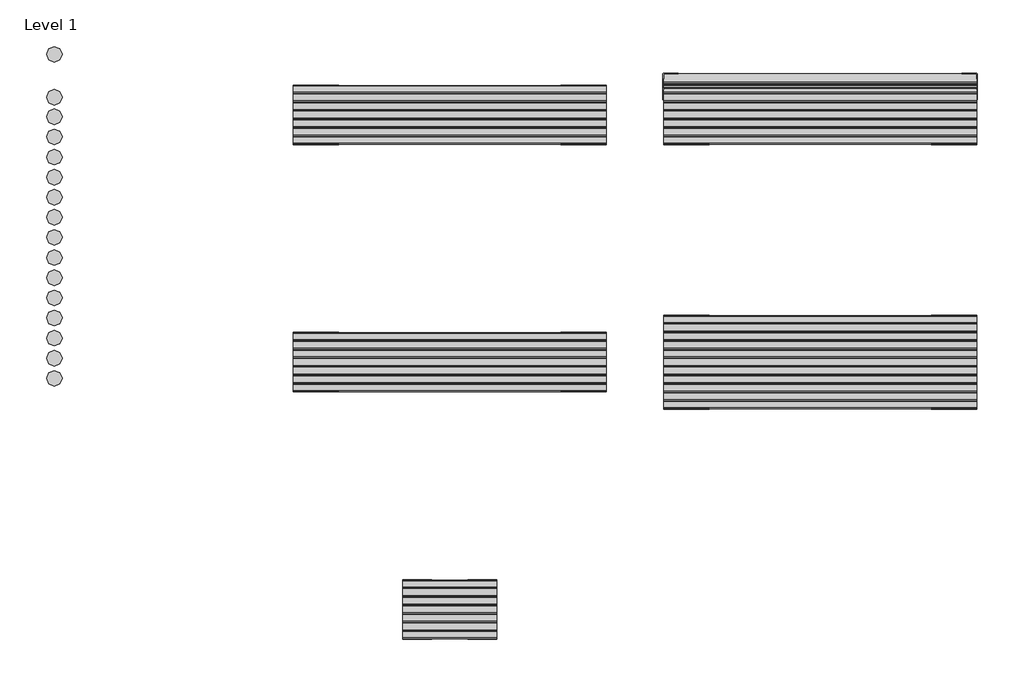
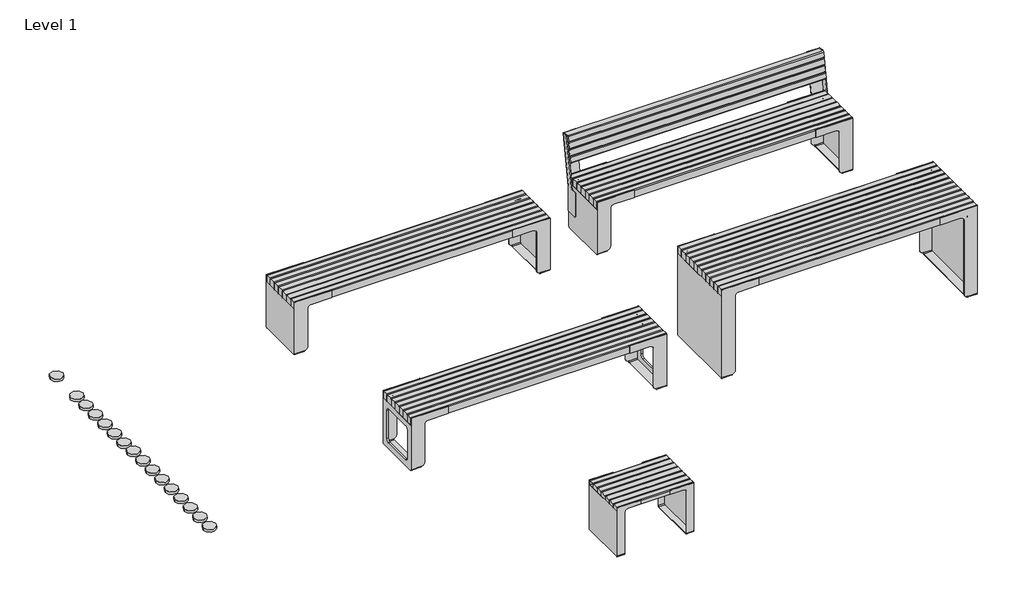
# One storey: 16 proxies, 5 furniture elements.
"""IFC4 building model written with IfcOpenShell, lengths in millimetres."""

from ifc_helpers import new_model, si_unit, origin, place, context, project, spatial, transform, mapped, element, save
from components import materialmodel_materialmodel_58669afb, furniture_72da6de6, furniture_69ef98cd, furniture_4ec1fb72, furniture_3f1389cd, furniture_fbf1eeca

model = new_model("IFC4")

# Units and contexts
model_context = context("Model", 3, world=origin())
ifc_project = project(units=[si_unit("LENGTHUNIT", "METRE", prefix="MILLI")], contexts=[model_context])

# Site, building, storey
site = spatial("IfcSite", under=ifc_project)
building = spatial("IfcBuilding", under=site)
storey = spatial("IfcBuildingStorey", under=building, Name="Level 1", Elevation=0.0)

# Proxies
placement = place(None, origin())
materialmodel_materialmodel_shape = materialmodel_materialmodel_58669afb(model_context)
element("IfcBuildingElementProxy", 1, Name="MaterialModel : MaterialModel", ObjectType="MaterialModel : MaterialModel", at=placement, inside=storey, context=model_context, shape_type="MappedRepresentation", body=[
    mapped(materialmodel_materialmodel_shape, transform((-9868.5516042, 2561.4940206, 0.0), x_axis=(1.0, 0.0, 0.0), y_axis=(0.0, 1.0, 0.0), z_axis=(0.0, 0.0, 1.0))),
])
element("IfcBuildingElementProxy", 2, Name="MaterialModel : MaterialModel", ObjectType="MaterialModel : MaterialModel", at=placement, inside=storey, context=model_context, shape_type="MappedRepresentation", body=[
    mapped(materialmodel_materialmodel_shape, transform((-9868.5516042, 2436.6712203, 0.0), x_axis=(1.0, 0.0, 0.0), y_axis=(0.0, 1.0, 0.0), z_axis=(0.0, 0.0, 1.0))),
])
element("IfcBuildingElementProxy", 3, Name="MaterialModel : MaterialModel", ObjectType="MaterialModel : MaterialModel", at=placement, inside=storey, context=model_context, shape_type="MappedRepresentation", body=[
    mapped(materialmodel_materialmodel_shape, transform((-9868.5516042, 2307.936676, 0.0), x_axis=(1.0, 0.0, 0.0), y_axis=(0.0, 1.0, 0.0), z_axis=(0.0, 0.0, 1.0))),
])
element("IfcBuildingElementProxy", 4, Name="MaterialModel : MaterialModel", ObjectType="MaterialModel : MaterialModel", at=placement, inside=storey, context=model_context, shape_type="MappedRepresentation", body=[
    mapped(materialmodel_materialmodel_shape, transform((-9868.5516042, 2179.2021316, 0.0), x_axis=(1.0, 0.0, 0.0), y_axis=(0.0, 1.0, 0.0), z_axis=(0.0, 0.0, 1.0))),
])
element("IfcBuildingElementProxy", 5, Name="MaterialModel : MaterialModel", ObjectType="MaterialModel : MaterialModel", at=placement, inside=storey, context=model_context, shape_type="MappedRepresentation", body=[
    mapped(materialmodel_materialmodel_shape, transform((-9868.5516042, 2050.4675873, 0.0), x_axis=(1.0, 0.0, 0.0), y_axis=(0.0, 1.0, 0.0), z_axis=(0.0, 0.0, 1.0))),
])
element("IfcBuildingElementProxy", 6, Name="MaterialModel : MaterialModel", ObjectType="MaterialModel : MaterialModel", at=placement, inside=storey, context=model_context, shape_type="MappedRepresentation", body=[
    mapped(materialmodel_materialmodel_shape, transform((-9868.5516042, 1922.7876659, 0.0), x_axis=(1.0, 0.0, 0.0), y_axis=(0.0, 1.0, 0.0), z_axis=(0.0, 0.0, 1.0))),
])
element("IfcBuildingElementProxy", 7, Name="MaterialModel : MaterialModel", ObjectType="MaterialModel : MaterialModel", at=placement, inside=storey, context=model_context, shape_type="MappedRepresentation", body=[
    mapped(materialmodel_materialmodel_shape, transform((-9868.5516042, 1794.0531216, 10.0), x_axis=(1.0, 0.0, 0.0), y_axis=(0.0, 1.0, 0.0), z_axis=(0.0, 0.0, 1.0))),
])
element("IfcBuildingElementProxy", 8, Name="MaterialModel : MaterialModel", ObjectType="MaterialModel : MaterialModel", at=placement, inside=storey, context=model_context, shape_type="MappedRepresentation", body=[
    mapped(materialmodel_materialmodel_shape, transform((-9868.5516042, 1665.3185772, 10.0), x_axis=(1.0, 0.0, 0.0), y_axis=(0.0, 1.0, 0.0), z_axis=(0.0, 0.0, 1.0))),
])
element("IfcBuildingElementProxy", 9, Name="MaterialModel : MaterialModel", ObjectType="MaterialModel : MaterialModel", at=placement, inside=storey, context=model_context, shape_type="MappedRepresentation", body=[
    mapped(materialmodel_materialmodel_shape, transform((-9868.5516042, 1536.5840329, 10.0), x_axis=(1.0, 0.0, 0.0), y_axis=(0.0, 1.0, 0.0), z_axis=(0.0, 0.0, 1.0))),
])
element("IfcBuildingElementProxy", 10, Name="MaterialModel : MaterialModel", ObjectType="MaterialModel : MaterialModel", at=placement, inside=storey, context=model_context, shape_type="MappedRepresentation", body=[
    mapped(materialmodel_materialmodel_shape, transform((-9868.5516042, 1407.8494885, 10.0), x_axis=(1.0, 0.0, 0.0), y_axis=(0.0, 1.0, 0.0), z_axis=(0.0, 0.0, 1.0))),
])
element("IfcBuildingElementProxy", 11, Name="MaterialModel : MaterialModel", ObjectType="MaterialModel : MaterialModel", at=placement, inside=storey, context=model_context, shape_type="MappedRepresentation", body=[
    mapped(materialmodel_materialmodel_shape, transform((-9868.5516042, 1279.1149442, 10.0), x_axis=(1.0, 0.0, 0.0), y_axis=(0.0, 1.0, 0.0), z_axis=(0.0, 0.0, 1.0))),
])
element("IfcBuildingElementProxy", 12, Name="MaterialModel : MaterialModel", ObjectType="MaterialModel : MaterialModel", at=placement, inside=storey, context=model_context, shape_type="MappedRepresentation", body=[
    mapped(materialmodel_materialmodel_shape, transform((-9868.5516042, 1150.3803998, 10.0), x_axis=(1.0, 0.0, 0.0), y_axis=(0.0, 1.0, 0.0), z_axis=(0.0, 0.0, 1.0))),
])
element("IfcBuildingElementProxy", 13, Name="MaterialModel : MaterialModel", ObjectType="MaterialModel : MaterialModel", at=placement, inside=storey, context=model_context, shape_type="MappedRepresentation", body=[
    mapped(materialmodel_materialmodel_shape, transform((-9868.5516042, 1021.6458555, 10.0), x_axis=(1.0, 0.0, 0.0), y_axis=(0.0, 1.0, 0.0), z_axis=(0.0, 0.0, 1.0))),
])
element("IfcBuildingElementProxy", 14, Name="MaterialModel : MaterialModel", ObjectType="MaterialModel : MaterialModel", at=placement, inside=storey, context=model_context, shape_type="MappedRepresentation", body=[
    mapped(materialmodel_materialmodel_shape, transform((-9868.5516042, 892.9113111, 10.0), x_axis=(1.0, 0.0, 0.0), y_axis=(0.0, 1.0, 0.0), z_axis=(0.0, 0.0, 1.0))),
])
element("IfcBuildingElementProxy", 15, Name="MaterialModel : MaterialModel", ObjectType="MaterialModel : MaterialModel", at=placement, inside=storey, context=model_context, shape_type="MappedRepresentation", body=[
    mapped(materialmodel_materialmodel_shape, transform((-9868.5516042, 764.1767668, 10.0), x_axis=(1.0, 0.0, 0.0), y_axis=(0.0, 1.0, 0.0), z_axis=(0.0, 0.0, 1.0))),
])
element("IfcBuildingElementProxy", 16, Name="MaterialModel : MaterialModel", ObjectType="MaterialModel : MaterialModel", at=placement, inside=storey, context=model_context, shape_type="MappedRepresentation", body=[
    mapped(materialmodel_materialmodel_shape, transform((-9868.5516042, 2835.9957074, 0.0), x_axis=(1.0, 0.0, 0.0), y_axis=(0.0, 1.0, 0.0), z_axis=(0.0, 0.0, 1.0))),
])

# Furniture
furniture_shape = furniture_72da6de6(model_context)
element("IfcFurniture", 17, ObjectType="Roros Produkter - Nobel - Bench - 32680 : Roros Produkter - Nobel - Bench - 32680", at=placement, inside=storey, context=model_context, shape_type="MappedRepresentation", body=[
    mapped(furniture_shape, transform((-7340.3848664, 2449.2903332, 0.0), x_axis=(1.0, 0.0, 0.0), y_axis=(0.0, 1.0, 0.0), z_axis=(0.0, 0.0, 1.0))),
])
furniture_2_shape = furniture_69ef98cd(model_context)
element("IfcFurniture", 18, ObjectType="Roros Produkter - Nobel - Bench - 32685 : Roros Produkter - Nobel - Bench - 32685", at=placement, inside=storey, context=model_context, shape_type="MappedRepresentation", body=[
    mapped(furniture_2_shape, transform((-4972.0445848, 2449.2903332, 0.0), x_axis=(1.0, 0.0, 0.0), y_axis=(0.0, 1.0, 0.0), z_axis=(0.0, 0.0, 1.0))),
])
furniture_3_shape = furniture_4ec1fb72(model_context)
element("IfcFurniture", 19, ObjectType="Roros Produkter - Nobel - Table - 32690 : Roros Produkter - Nobel - Table - 32690", at=placement, inside=storey, context=model_context, shape_type="MappedRepresentation", body=[
    mapped(furniture_3_shape, transform((-4972.0445849, 867.6469244, 0.0), x_axis=(1.0, 0.0, 0.0), y_axis=(0.0, 1.0, 0.0), z_axis=(0.0, 0.0, 1.0))),
])
furniture_4_shape = furniture_3f1389cd(model_context)
element("IfcFurniture", 20, ObjectType="Roros Produkter - Nobel - Bench - 32682 : Roros Produkter - Nobel - Bench - 32682", at=placement, inside=storey, context=model_context, shape_type="MappedRepresentation", body=[
    mapped(furniture_4_shape, transform((-7340.3848664, 867.6469244, 0.0), x_axis=(1.0, 0.0, 0.0), y_axis=(0.0, 1.0, 0.0), z_axis=(0.0, 0.0, 1.0))),
])
furniture_5_shape = furniture_fbf1eeca(model_context)
element("IfcFurniture", 21, ObjectType="Roros Produkter - Nobel - Stool - 32670 : Roros Produkter - Nobel - Stool - 32670", at=placement, inside=storey, context=model_context, shape_type="MappedRepresentation", body=[
    mapped(furniture_5_shape, transform((-7340.3848664, -713.9964843, 0.0), x_axis=(1.0, 0.0, 0.0), y_axis=(0.0, 1.0, 0.0), z_axis=(0.0, 0.0, 1.0))),
])

save(model, "model.ifc")
